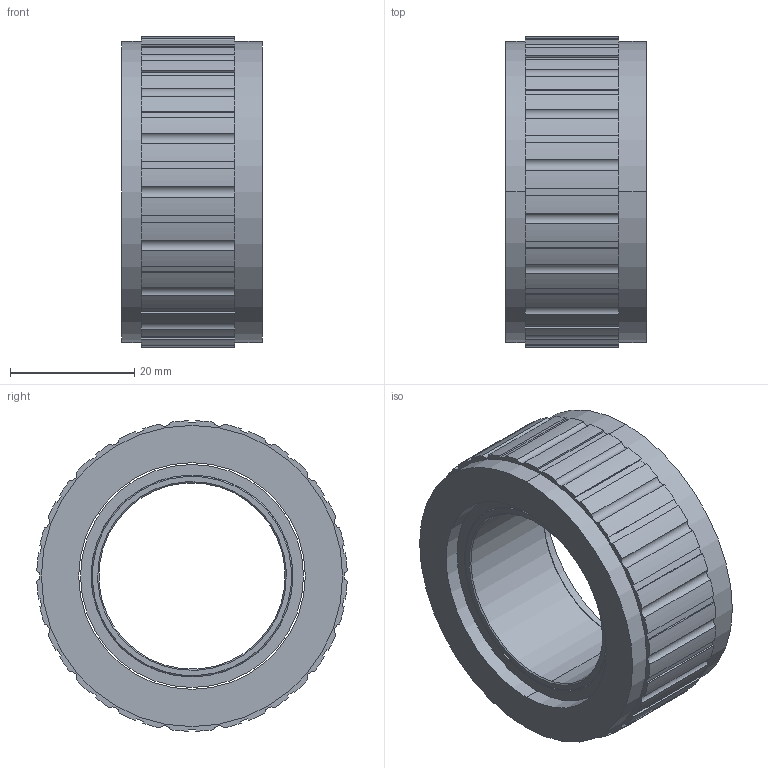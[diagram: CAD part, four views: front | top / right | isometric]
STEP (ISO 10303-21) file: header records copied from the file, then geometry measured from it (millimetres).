
FILE_DESCRIPTION (( 'STEP AP203' ), '1' );
FILE_NAME ('FMK05015-0018-3530N-10DP22-8.5.STEP', '2025-08-05T09:30:53', ( '' ), ( '' ), 'SwSTEP 2.0', 'SolidWorks 2023', '' );
FILE_SCHEMA (( 'CONFIG_CONTROL_DESIGN' ));
Length unit declared in the file: millimetre
Products named in the file (1): FMK05015-0018-3530N-10DP22-8.5
Bounding box: 22.7 x 49.97 x 49.99 mm (x, y, z)
Volume: 24849.2 mm3; surface area: 12349.3 mm2
Topology: 2 solids, 2 shells, 138 faces, 386 edges, 256 vertices
Faces by surface type: cylinder 68, plane 62, cone 8
Entity records: 4569 total; most frequent: DIRECTION 812, CARTESIAN_POINT 781, ORIENTED_EDGE 772, EDGE_CURVE 386, AXIS2_PLACEMENT_3D 287, VERTEX_POINT 256, LINE 238, VECTOR 238
